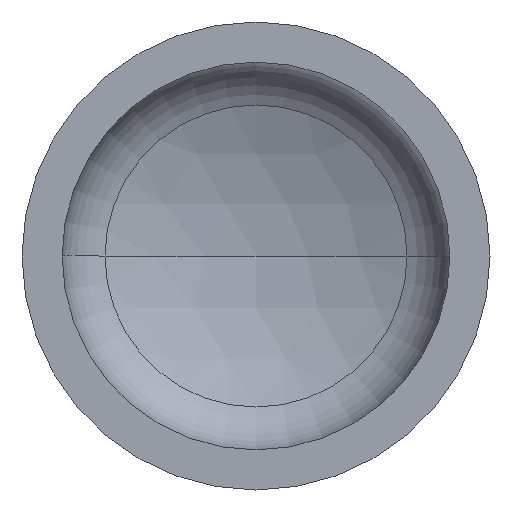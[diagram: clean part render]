
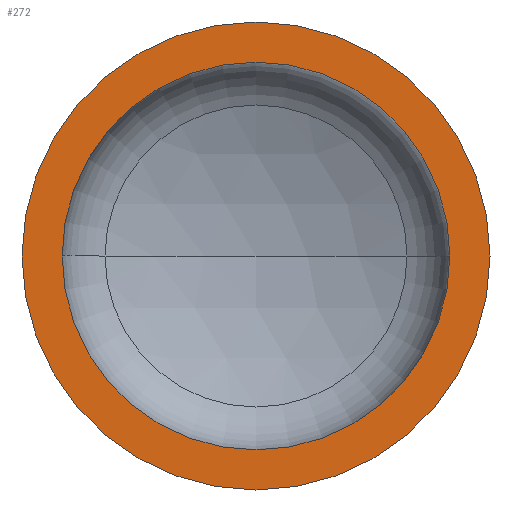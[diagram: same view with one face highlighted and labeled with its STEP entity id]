
A CAD part, front view. The second image highlights one B-rep face of the part: STEP entity #272.
In plain terms, the highlighted planar face has unit normal (0, -1, 0).
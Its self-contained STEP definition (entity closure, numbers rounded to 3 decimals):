
#13 = AXIS2_PLACEMENT_3D ( 'NONE', #94, #379, #398 ) ;
#16 = EDGE_LOOP ( 'NONE', ( #81, #120 ) ) ;
#22 = AXIS2_PLACEMENT_3D ( 'NONE', #29, #338, #266 ) ;
#24 = ORIENTED_EDGE ( 'NONE', *, *, #355, .F. ) ;
#29 = CARTESIAN_POINT ( 'NONE',  ( 0., 0., 0. ) ) ;
#30 = VERTEX_POINT ( 'NONE', #365 ) ;
#47 = VERTEX_POINT ( 'NONE', #372 ) ;
#54 = AXIS2_PLACEMENT_3D ( 'NONE', #316, #313, #312 ) ;
#56 = EDGE_LOOP ( 'NONE', ( #137, #24 ) ) ;
#57 = AXIS2_PLACEMENT_3D ( 'NONE', #356, #348, #164 ) ;
#81 = ORIENTED_EDGE ( 'NONE', *, *, #368, .T. ) ;
#83 = EDGE_CURVE ( 'NONE', #130, #47, #136, .T. ) ;
#85 = EDGE_CURVE ( 'NONE', #152, #30, #278, .T. ) ;
#94 = CARTESIAN_POINT ( 'NONE',  ( -700., 0., 0. ) ) ;
#120 = ORIENTED_EDGE ( 'NONE', *, *, #83, .T. ) ;
#130 = VERTEX_POINT ( 'NONE', #268 ) ;
#136 = CIRCLE ( 'NONE', #57, 700. ) ;
#137 = ORIENTED_EDGE ( 'NONE', *, *, #85, .F. ) ;
#152 = VERTEX_POINT ( 'NONE', #308 ) ;
#162 = CARTESIAN_POINT ( 'NONE',  ( 0., 0., 0. ) ) ;
#164 = DIRECTION ( 'NONE',  ( 1., 0., 0. ) ) ;
#188 = PLANE ( 'NONE',  #13 ) ;
#224 = AXIS2_PLACEMENT_3D ( 'NONE', #162, #300, #408 ) ;
#247 = FACE_BOUND ( 'NONE', #56, .T. ) ;
#266 = DIRECTION ( 'NONE',  ( 1., 0., 0. ) ) ;
#268 = CARTESIAN_POINT ( 'NONE',  ( -700., 0., 0. ) ) ;
#272 = ADVANCED_FACE ( 'NONE', ( #247, #302 ), #188, .F. ) ;
#278 = CIRCLE ( 'NONE', #54, 580. ) ;
#300 = DIRECTION ( 'NONE',  ( 0., -1., 0. ) ) ;
#302 = FACE_OUTER_BOUND ( 'NONE', #16, .T. ) ;
#308 = CARTESIAN_POINT ( 'NONE',  ( 580., 0., 0. ) ) ;
#312 = DIRECTION ( 'NONE',  ( 1., 0., 0. ) ) ;
#313 = DIRECTION ( 'NONE',  ( 0., -1., 0. ) ) ;
#316 = CARTESIAN_POINT ( 'NONE',  ( 0., 0., 0. ) ) ;
#338 = DIRECTION ( 'NONE',  ( 0., -1., 0. ) ) ;
#348 = DIRECTION ( 'NONE',  ( 0., -1., 0. ) ) ;
#355 = EDGE_CURVE ( 'NONE', #30, #152, #364, .T. ) ;
#356 = CARTESIAN_POINT ( 'NONE',  ( 0., 0., 0. ) ) ;
#360 = CIRCLE ( 'NONE', #224, 700. ) ;
#364 = CIRCLE ( 'NONE', #22, 580. ) ;
#365 = CARTESIAN_POINT ( 'NONE',  ( -580., 0., 0. ) ) ;
#368 = EDGE_CURVE ( 'NONE', #47, #130, #360, .T. ) ;
#372 = CARTESIAN_POINT ( 'NONE',  ( 700., 0., 0. ) ) ;
#379 = DIRECTION ( 'NONE',  ( 0., 1., 0. ) ) ;
#398 = DIRECTION ( 'NONE',  ( -1., 0., 0. ) ) ;
#408 = DIRECTION ( 'NONE',  ( 1., 0., 0. ) ) ;
